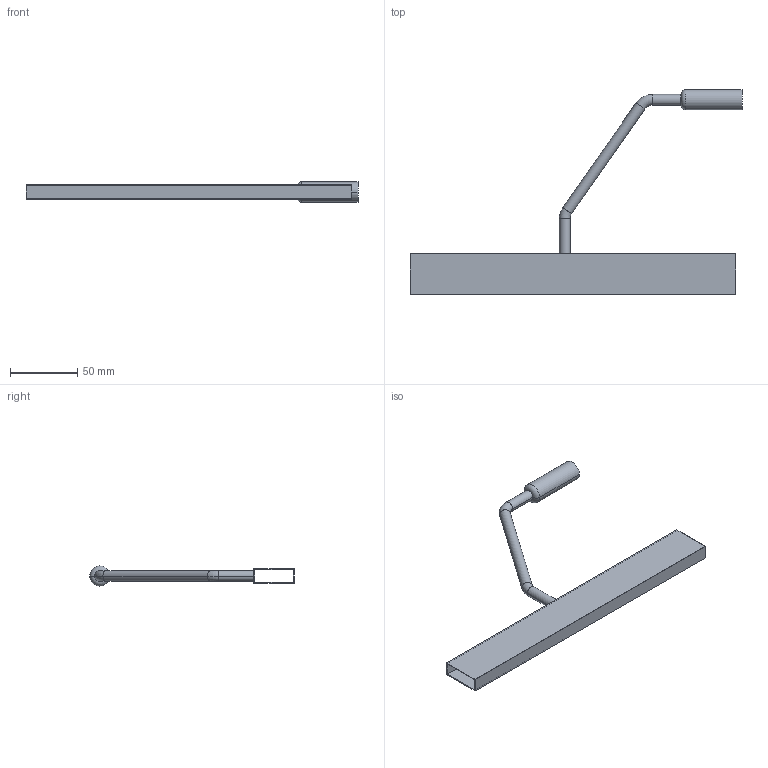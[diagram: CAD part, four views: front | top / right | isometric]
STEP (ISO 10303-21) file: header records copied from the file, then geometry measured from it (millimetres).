
FILE_DESCRIPTION (( 'STEP AP214' ), '1' );
FILE_NAME ('_DWD XP Rechteckreling mit Frontabstützung NL275.step', '2010-07-14T13:27:10', ( 'grass' ), ( '' ), 'SwSTEP 2.0', 'SolidWorks 2010', '' );
FILE_SCHEMA (( 'AUTOMOTIVE_DESIGN' ));
Length unit declared in the file: millimetre
Products named in the file (1): _DWD XP Rechteckreling mit Frontabstützung NL275
Bounding box: 246.6 x 151.9 x 15 mm (x, y, z)
Volume: 27307.7 mm3; surface area: 44460.6 mm2
Topology: 1 solids, 1 shells, 25 faces, 54 edges, 32 vertices
Faces by surface type: plane 11, cylinder 8, torus 6
Entity records: 712 total; most frequent: DIRECTION 128, CARTESIAN_POINT 112, ORIENTED_EDGE 108, EDGE_CURVE 54, AXIS2_PLACEMENT_3D 48, LINE 32, VECTOR 32, VERTEX_POINT 32
